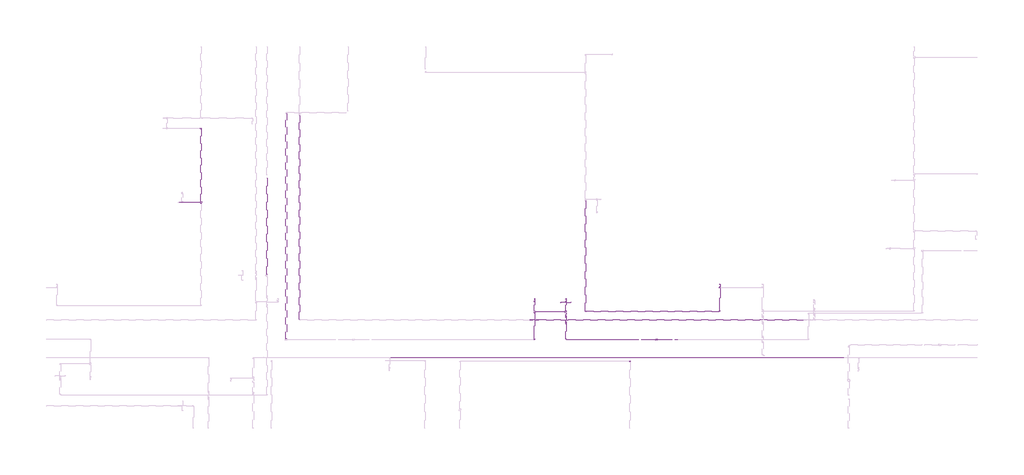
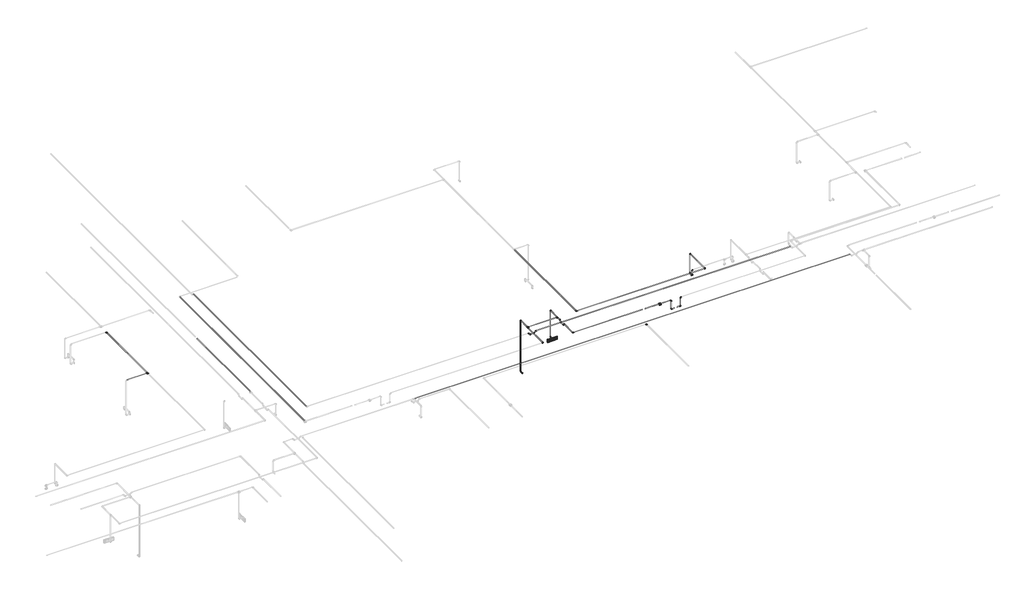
# One storey, part 26 of 40: 36 cable carrier segments, 28 cable carrier fittings, 2 alarms, 1 electric appliance.
"""IFC4 building model written with IfcOpenShell, lengths in millimetres."""

from ifc_helpers import new_model, si_unit, point, frame, frame_2d, origin, place, context, project, spatial, circle_curve, trimmed, segment, composite_curve, outline, extrude, transform, mapped, element, save
from components import alarm_4b7e8fd8, alarm_a2247946, cable_carrier_fitting_69f1a801, cable_carrier_fitting_8122f9af, cable_carrier_fitting_8fd13dfc, electric_appliance_5961a143

model = new_model("IFC4")

# Units and contexts
model_context = context("Model", 3, world=origin())
ifc_project = project(units=[si_unit("LENGTHUNIT", "METRE", prefix="MILLI")], contexts=[model_context])

# Site, building, storey
site = spatial("IfcSite", under=ifc_project)
building = spatial("IfcBuilding", under=site)
storey = spatial("IfcBuildingStorey", under=building, Name="1 этаж", Elevation=0.0)

# Alarms
placement = place(None, origin())
alarm_shape = alarm_4b7e8fd8(model_context)
element("IfcAlarm", 1, ObjectType="RBZ_Оповещатель_Световой_Рубеж_ОПОП1-R3(грань) : ОПОП 1-R3 \"Выход\"", at=placement, inside=storey, context=model_context, shape_type="MappedRepresentation", body=[
    mapped(alarm_shape, transform((-4706.0740021, 6244.6370105, 2300.0), x_axis=(1.0, 0.0, 0.0), y_axis=(0.0, 0.0, 1.0), z_axis=(0.0, -1.0, 0.0))),
])
alarm_2_shape = alarm_a2247946(model_context)
element("IfcAlarm", 2, ObjectType="RBZ_ИзоляторШлейфа_Рубеж_ИЗ-1_прот.R3(плоскость) : ИЗ-1 прот.R3", at=placement, inside=storey, context=model_context, shape_type="MappedRepresentation", body=[
    mapped(alarm_2_shape, transform((-1992.3240021, 5122.1370105, 3200.05), x_axis=(1.0, 0.0, 0.0), y_axis=(0.0, 1.0, 0.0), z_axis=(0.0, 0.0, 1.0))),
])

# Cable carrier fittings
cable_carrier_fitting_shape = cable_carrier_fitting_69f1a801(model_context)
element("IfcCableCarrierFitting", 3, ObjectType="ADSK_Поворот_Минимальный размер : Неспецифицируемый", at=placement, inside=storey, context=model_context, shape_type="MappedRepresentation", body=[
    mapped(cable_carrier_fitting_shape, transform((-2782.8240025, 4479.5908077, 3190.0036059), x_axis=(0.0, 0.9999999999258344, 1.2179130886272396e-05), y_axis=(-0.9999999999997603, 8.433763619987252e-12, -6.924766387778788e-07), z_axis=(-6.924766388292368e-07, -1.2179130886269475e-05, 0.9999999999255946))),
])
element("IfcCableCarrierFitting", 4, ObjectType="ADSK_Поворот_Минимальный размер : Неспецифицируемый", at=placement, inside=storey, context=model_context, shape_type="MappedRepresentation", body=[
    mapped(cable_carrier_fitting_shape, transform((-1636.0238077, 5122.1370105, 2891.5753772), x_axis=(-1.0, 0.0, 0.0), y_axis=(0.0, 0.0, 1.0), z_axis=(0.0, 1.0, 0.0))),
])
element("IfcCableCarrierFitting", 5, ObjectType="ADSK_Поворот_Минимальный размер : Неспецифицируемый", at=placement, inside=storey, context=model_context, shape_type="MappedRepresentation", body=[
    mapped(cable_carrier_fitting_shape, transform((-1636.0238077, 5122.1370105, 3189.3), x_axis=(0.0, 0.0, 1.0), y_axis=(-1.0, 0.0, 0.0), z_axis=(0.0, -1.0, 0.0))),
])
element("IfcCableCarrierFitting", 6, ObjectType="ADSK_Поворот_Минимальный размер : Неспецифицируемый", at=placement, inside=storey, context=model_context, shape_type="MappedRepresentation", body=[
    mapped(cable_carrier_fitting_shape, transform((-5639.8240021, 5122.1370105, 3189.3), x_axis=(1.0, 0.0, 0.0), y_axis=(0.0, 1.0, 0.0), z_axis=(0.0, 0.0, 1.0))),
])
element("IfcCableCarrierFitting", 7, ObjectType="ADSK_Поворот_Минимальный размер : Неспецифицируемый", at=placement, inside=storey, context=model_context, shape_type="MappedRepresentation", body=[
    mapped(cable_carrier_fitting_shape, transform((-1348.6241965, 5122.1370105, 2891.5753772), x_axis=(1.0, 0.0, 0.0), y_axis=(0.0, 0.0, 1.0), z_axis=(0.0, -1.0, 0.0))),
])
element("IfcCableCarrierFitting", 8, ObjectType="ADSK_Поворот_Минимальный размер : Неспецифицируемый", at=placement, inside=storey, context=model_context, shape_type="MappedRepresentation", body=[
    mapped(cable_carrier_fitting_shape, transform((-1348.6241965, 5122.1370105, 3189.2903068), x_axis=(0.0, 0.0, 1.0), y_axis=(1.0, 0.0, 0.0), z_axis=(0.0, 1.0, 0.0))),
])
element("IfcCableCarrierFitting", 9, ObjectType="ADSK_Поворот_Минимальный размер : Неспецифицируемый", at=placement, inside=storey, context=model_context, shape_type="MappedRepresentation", body=[
    mapped(cable_carrier_fitting_shape, transform((-92.3240021, 6678.6370105, 2700.0), x_axis=(0.0, 0.0, 1.0), y_axis=(1.0, 0.0, 0.0), z_axis=(0.0, 1.0, 0.0))),
])
element("IfcCableCarrierFitting", 10, ObjectType="ADSK_Поворот_Минимальный размер : Неспецифицируемый", at=placement, inside=storey, context=model_context, shape_type="MappedRepresentation", body=[
    mapped(cable_carrier_fitting_shape, transform((-92.3240021, 6778.8368161, 2534.0911237), x_axis=(0.0, 1.0, 0.0), y_axis=(0.0, 0.0, 1.0), z_axis=(1.0, 0.0, 0.0))),
])
element("IfcCableCarrierFitting", 11, ObjectType="ADSK_Поворот_Минимальный размер : Неспецифицируемый", at=placement, inside=storey, context=model_context, shape_type="MappedRepresentation", body=[
    mapped(cable_carrier_fitting_shape, transform((-92.3240021, 6778.8368161, 3187.0), x_axis=(0.0, 0.0, 1.0), y_axis=(0.0, -1.0, 0.0), z_axis=(1.0, 0.0, 0.0))),
])
element("IfcCableCarrierFitting", 12, ObjectType="ADSK_Поворот_Минимальный размер : Неспецифицируемый", at=placement, inside=storey, context=model_context, shape_type="MappedRepresentation", body=[
    mapped(cable_carrier_fitting_shape, transform((-92.3240021, 5966.4696908, 3187.0), x_axis=(1.0, 0.0, 0.0), y_axis=(0.0, 1.0, 0.0), z_axis=(0.0, 0.0, 1.0))),
])
element("IfcCableCarrierFitting", 13, ObjectType="ADSK_Поворот_Минимальный размер : Неспецифицируемый", at=placement, inside=storey, context=model_context, shape_type="MappedRepresentation", body=[
    mapped(cable_carrier_fitting_shape, transform((-5639.8240021, 6341.8368161, 1500.0), x_axis=(0.0, 1.0, 0.0), y_axis=(0.0, 0.0, 1.0), z_axis=(1.0, 0.0, 0.0))),
])
element("IfcCableCarrierFitting", 14, ObjectType="ADSK_Поворот_Минимальный размер : Неспецифицируемый", at=placement, inside=storey, context=model_context, shape_type="MappedRepresentation", body=[
    mapped(cable_carrier_fitting_shape, transform((-5639.8240021, 6341.8368161, 3189.3), x_axis=(0.0, 0.0, 1.0), y_axis=(0.0, -1.0, 0.0), z_axis=(1.0, 0.0, 0.0))),
])
element("IfcCableCarrierFitting", 15, ObjectType="ADSK_Поворот_Минимальный размер : Неспецифицируемый", at=placement, inside=storey, context=model_context, shape_type="MappedRepresentation", body=[
    mapped(cable_carrier_fitting_shape, transform((-4706.0740021, 6341.8368161, 2300.0), x_axis=(0.0, 1.0, 0.0), y_axis=(0.0, 0.0, 1.0), z_axis=(1.0, 0.0, 0.0))),
])
element("IfcCableCarrierFitting", 16, ObjectType="ADSK_Поворот_Минимальный размер : Неспецифицируемый", at=placement, inside=storey, context=model_context, shape_type="MappedRepresentation", body=[
    mapped(cable_carrier_fitting_shape, transform((-4706.0740021, 6341.8368161, 3189.3), x_axis=(0.0, 0.0, 1.0), y_axis=(0.0, -1.0, 0.0), z_axis=(1.0, 0.0, 0.0))),
])
element("IfcCableCarrierFitting", 17, ObjectType="ADSK_Поворот_Минимальный размер : Неспецифицируемый", at=placement, inside=storey, context=model_context, shape_type="MappedRepresentation", body=[
    mapped(cable_carrier_fitting_shape, transform((-4706.0740021, 5122.1370105, 3189.3), x_axis=(0.0, -1.0, 0.0), y_axis=(1.0, 0.0, 0.0), z_axis=(0.0, 0.0, 1.0))),
])
element("IfcCableCarrierFitting", 18, ObjectType="ADSK_Поворот_Минимальный размер : Неспецифицируемый", at=placement, inside=storey, context=model_context, shape_type="MappedRepresentation", body=[
    mapped(cable_carrier_fitting_shape, transform((-15622.3240021, 11449.6370105, 3187.0), x_axis=(0.0, 1.0, 0.0), y_axis=(-1.0, 0.0, 0.0), z_axis=(0.0, 0.0, 1.0))),
])
element("IfcCableCarrierFitting", 19, ObjectType="ADSK_Поворот_Минимальный размер : Неспецифицируемый", at=placement, inside=storey, context=model_context, shape_type="MappedRepresentation", body=[
    mapped(cable_carrier_fitting_shape, transform((-4118.3240021, 5966.4696908, 3187.0), x_axis=(0.0, -1.0, 0.0), y_axis=(1.0, 0.0, 0.0), z_axis=(0.0, 0.0, 1.0))),
])
cable_carrier_fitting_2_shape = cable_carrier_fitting_8122f9af(model_context)
element("IfcCableCarrierFitting", 20, ObjectType="ADSK_Поворот_Минимальный размер : Неспецифицируемый", at=placement, inside=storey, context=model_context, shape_type="MappedRepresentation", body=[
    mapped(cable_carrier_fitting_2_shape, transform((-5756.3962734, 5709.6370105, 3180.0), x_axis=(1.0, 0.0, 0.0), y_axis=(0.0, 0.0, -1.0), z_axis=(0.0, 1.0, 0.0))),
])
element("IfcCableCarrierFitting", 21, ObjectType="ADSK_Поворот_Минимальный размер : Неспецифицируемый", at=placement, inside=storey, context=model_context, shape_type="MappedRepresentation", body=[
    mapped(cable_carrier_fitting_2_shape, transform((-5706.3962734, 5709.6370105, 3130.0), x_axis=(0.7071067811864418, 0.0, -0.7071067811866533), y_axis=(0.7071067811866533, 0.0, 0.7071067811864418), z_axis=(0.0, -1.0, 0.0))),
])
element("IfcCableCarrierFitting", 22, ObjectType="ADSK_Поворот_Минимальный размер : Неспецифицируемый", at=placement, inside=storey, context=model_context, shape_type="MappedRepresentation", body=[
    mapped(cable_carrier_fitting_2_shape, transform((-5573.2517309, 5709.6370105, 3130.0), x_axis=(1.0, 0.0, 0.0), y_axis=(0.0, 0.0, 1.0), z_axis=(0.0, -1.0, 0.0))),
])
element("IfcCableCarrierFitting", 23, ObjectType="ADSK_Поворот_Минимальный размер : Неспецифицируемый", at=placement, inside=storey, context=model_context, shape_type="MappedRepresentation", body=[
    mapped(cable_carrier_fitting_2_shape, transform((-4706.0740021, 5643.0647393, 3139.3), x_axis=(0.0, 0.7071067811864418, -0.7071067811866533), y_axis=(0.0, 0.7071067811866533, 0.7071067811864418), z_axis=(1.0, 0.0, 0.0))),
])
element("IfcCableCarrierFitting", 24, ObjectType="ADSK_Поворот_Минимальный размер : Неспецифицируемый", at=placement, inside=storey, context=model_context, shape_type="MappedRepresentation", body=[
    mapped(cable_carrier_fitting_2_shape, transform((-4706.0740021, 5776.2092818, 3139.3), x_axis=(0.0, 1.0, 0.0), y_axis=(0.0, 0.0, 1.0), z_axis=(1.0, 0.0, 0.0))),
])
element("IfcCableCarrierFitting", 25, ObjectType="ADSK_Поворот_Минимальный размер : Неспецифицируемый", at=placement, inside=storey, context=model_context, shape_type="MappedRepresentation", body=[
    mapped(cable_carrier_fitting_2_shape, transform((-5523.2517309, 5709.6370105, 3180.0), x_axis=(0.7071067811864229, 0.0, 0.7071067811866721), y_axis=(0.7071067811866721, 0.0, -0.7071067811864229), z_axis=(0.0, 1.0, 0.0))),
])
element("IfcCableCarrierFitting", 26, ObjectType="ADSK_Поворот_Минимальный размер : Неспецифицируемый", at=placement, inside=storey, context=model_context, shape_type="MappedRepresentation", body=[
    mapped(cable_carrier_fitting_2_shape, transform((-4706.0740021, 5593.0647393, 3189.3), x_axis=(0.0, -0.7071067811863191, 0.7071067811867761), y_axis=(0.0, -0.7071067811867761, -0.7071067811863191), z_axis=(1.0, 0.0, 0.0))),
])
element("IfcCableCarrierFitting", 27, ObjectType="ADSK_Поворот_Минимальный размер : Неспецифицируемый", at=placement, inside=storey, context=model_context, shape_type="MappedRepresentation", body=[
    mapped(cable_carrier_fitting_2_shape, transform((-4706.0740021, 5826.2092818, 3189.3), x_axis=(0.0, 0.7071067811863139, 0.7071067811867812), y_axis=(0.0, 0.7071067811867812, -0.7071067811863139), z_axis=(-1.0, 0.0, 0.0))),
])
cable_carrier_fitting_3_shape = cable_carrier_fitting_8fd13dfc(model_context)
element("IfcCableCarrierFitting", 28, ObjectType="ADSK_Тройник : ПВХ", at=placement, inside=storey, context=model_context, shape_type="MappedRepresentation", body=[
    mapped(cable_carrier_fitting_3_shape, transform((-5639.8240021, 5956.5299441, 3189.3), x_axis=(0.0, 1.0, 0.0), y_axis=(-1.0, 0.0, 0.0), z_axis=(0.0, 0.0, 1.0))),
])
element("IfcCableCarrierFitting", 29, ObjectType="ADSK_Тройник : ПВХ", at=placement, inside=storey, context=model_context, shape_type="MappedRepresentation", body=[
    mapped(cable_carrier_fitting_3_shape, transform((-4706.0740021, 5956.5299441, 3189.3), x_axis=(0.0, -1.0, 0.0), y_axis=(1.0, 0.0, 0.0), z_axis=(0.0, 0.0, 1.0))),
])
element("IfcCableCarrierFitting", 30, ObjectType="ADSK_Тройник : ПВХ", at=placement, inside=storey, context=model_context, shape_type="MappedRepresentation", body=[
    mapped(cable_carrier_fitting_3_shape, transform((-15622.3240021, 9234.4907448, 3187.0), x_axis=(0.0, -1.0, 0.0), y_axis=(1.0, 0.0, 0.0), z_axis=(0.0, 0.0, 1.0))),
])

# Cable carrier segments
element("IfcCableCarrierSegment", 31, ObjectType="Гофрированная труба", at=placement, inside=storey, context=model_context, shape_type="SweptSolid", body=[
    extrude(outline(composite_curve([segment(trimmed(circle_curve(frame_2d((3189.3, -13072.3240021)), 10.0), [point((3189.3, -13062.3240021))], [point((3199.3, -13072.3240021))], False, "CARTESIAN"), True, "CONTINUOUS"), segment(trimmed(circle_curve(frame_2d((3189.3, -13072.3240021)), 10.0), [point((3199.3, -13072.3240021))], [point((3189.3, -13082.3240021))], False, "CARTESIAN"), True, "CONTINUOUS"), segment(trimmed(circle_curve(frame_2d((3189.3, -13072.3240021)), 10.0), [point((3189.3, -13082.3240021))], [point((3179.3, -13072.3240021))], False, "CARTESIAN"), True, "CONTINUOUS"), segment(trimmed(circle_curve(frame_2d((3189.3, -13072.3240021)), 10.0), [point((3179.3, -13072.3240021))], [point((3189.3, -13062.3240021))], False, "CARTESIAN"), True, "CONTINUOUS")], self_intersect=False)), frame((0.0, 5148.1370105, 0.0), z_axis=(0.0, 1.0, 0.0), x_axis=(0.0, 0.0, 1.0)), (0.0, 0.0, 1.0), 6755.5),
])
element("IfcCableCarrierSegment", 32, ObjectType="Гофрированная труба", at=placement, inside=storey, context=model_context, shape_type="SweptSolid", body=[
    extrude(outline(composite_curve([segment(trimmed(circle_curve(frame_2d((0.0, 10.0)), 10.0), [point((0.0, 0.0))], [point((-10.0, 10.0))], False, "CARTESIAN"), True, "CONTINUOUS"), segment(trimmed(circle_curve(frame_2d((0.0, 10.0)), 10.0), [point((-10.0, 10.0))], [point((0.0, 20.0))], False, "CARTESIAN"), True, "CONTINUOUS"), segment(trimmed(circle_curve(frame_2d((0.0, 10.0)), 10.0), [point((0.0, 20.0))], [point((10.0, 10.0))], False, "CARTESIAN"), True, "CONTINUOUS"), segment(trimmed(circle_curve(frame_2d((0.0, 10.0)), 10.0), [point((10.0, 10.0))], [point((0.0, 0.0))], False, "CARTESIAN"), True, "CONTINUOUS")], self_intersect=False)), frame((-13662.3240113, 9963.1370097, 3189.2125212), z_axis=(0.0, -0.999999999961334, 8.793864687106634e-06), x_axis=(0.0, -8.793864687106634e-06, -0.999999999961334)), (0.0, 0.0, 1.0), 2885.9999799),
])
element("IfcCableCarrierSegment", 33, ObjectType="Гофрированная труба", at=placement, inside=storey, context=model_context, shape_type="SweptSolid", body=[
    extrude(outline(composite_curve([segment(trimmed(circle_curve(frame_2d((5122.1370105, 3189.3)), 10.0), [point((5112.1370105, 3189.3))], [point((5122.1370105, 3199.3))], False, "CARTESIAN"), True, "CONTINUOUS"), segment(trimmed(circle_curve(frame_2d((5122.1370105, 3189.3)), 10.0), [point((5122.1370105, 3199.3))], [point((5132.1370105, 3189.3))], False, "CARTESIAN"), True, "CONTINUOUS"), segment(trimmed(circle_curve(frame_2d((5122.1370105, 3189.3)), 10.0), [point((5132.1370105, 3189.3))], [point((5122.1370105, 3179.3))], False, "CARTESIAN"), True, "CONTINUOUS"), segment(trimmed(circle_curve(frame_2d((5122.1370105, 3189.3)), 10.0), [point((5122.1370105, 3179.3))], [point((5112.1370105, 3189.3))], False, "CARTESIAN"), True, "CONTINUOUS")], self_intersect=False)), frame((-4685.0740021, 0.0, 0.0), z_axis=(1.0, 0.0, 0.0), x_axis=(0.0, 1.0, 0.0)), (0.0, 0.0, 1.0), 2146.25),
])
element("IfcCableCarrierSegment", 34, ObjectType="Гофрированная труба", at=placement, inside=storey, context=model_context, shape_type="SweptSolid", body=[
    extrude(outline(composite_curve([segment(trimmed(circle_curve(frame_2d((3189.3, -5639.8240021)), 10.0), [point((3189.3, -5629.8240021))], [point((3199.3, -5639.8240021))], False, "CARTESIAN"), True, "CONTINUOUS"), segment(trimmed(circle_curve(frame_2d((3189.3, -5639.8240021)), 10.0), [point((3199.3, -5639.8240021))], [point((3189.3, -5649.8240021))], False, "CARTESIAN"), True, "CONTINUOUS"), segment(trimmed(circle_curve(frame_2d((3189.3, -5639.8240021)), 10.0), [point((3189.3, -5649.8240021))], [point((3179.3, -5639.8240021))], False, "CARTESIAN"), True, "CONTINUOUS"), segment(trimmed(circle_curve(frame_2d((3189.3, -5639.8240021)), 10.0), [point((3179.3, -5639.8240021))], [point((3189.3, -5629.8240021))], False, "CARTESIAN"), True, "CONTINUOUS")], self_intersect=False)), frame((0.0, 5143.1370105, 0.0), z_axis=(0.0, 1.0, 0.0), x_axis=(0.0, 0.0, 1.0)), (0.0, 0.0, 1.0), 783.3929335),
])
element("IfcCableCarrierSegment", 35, ObjectType="Гофрированная труба", at=placement, inside=storey, context=model_context, shape_type="SweptSolid", body=[
    extrude(outline(composite_curve([segment(trimmed(circle_curve(frame_2d((3139.3, -4706.0740021)), 10.0), [point((3139.3, -4696.0740021))], [point((3149.3, -4706.0740021))], False, "CARTESIAN"), True, "CONTINUOUS"), segment(trimmed(circle_curve(frame_2d((3139.3, -4706.0740021)), 10.0), [point((3149.3, -4706.0740021))], [point((3139.3, -4716.0740021))], False, "CARTESIAN"), True, "CONTINUOUS"), segment(trimmed(circle_curve(frame_2d((3139.3, -4706.0740021)), 10.0), [point((3139.3, -4716.0740021))], [point((3129.3, -4706.0740021))], False, "CARTESIAN"), True, "CONTINUOUS"), segment(trimmed(circle_curve(frame_2d((3139.3, -4706.0740021)), 10.0), [point((3129.3, -4706.0740021))], [point((3139.3, -4696.0740021))], False, "CARTESIAN"), True, "CONTINUOUS")], self_intersect=False)), frame((0.0, 5652.3490105, 0.0), z_axis=(0.0, 1.0, 0.0), x_axis=(0.0, 0.0, 1.0)), (0.0, 0.0, 1.0), 114.576),
])
element("IfcCableCarrierSegment", 36, ObjectType="Гофрированная труба", at=placement, inside=storey, context=model_context, shape_type="SweptSolid", body=[
    extrude(outline(composite_curve([segment(trimmed(circle_curve(frame_2d((5956.5299441, 3189.3)), 10.0), [point((5966.5299441, 3189.3))], [point((5956.5299441, 3179.3))], False, "CARTESIAN"), True, "CONTINUOUS"), segment(trimmed(circle_curve(frame_2d((5956.5299441, 3189.3)), 10.0), [point((5956.5299441, 3179.3))], [point((5946.5299441, 3189.3))], False, "CARTESIAN"), True, "CONTINUOUS"), segment(trimmed(circle_curve(frame_2d((5956.5299441, 3189.3)), 10.0), [point((5946.5299441, 3189.3))], [point((5956.5299441, 3199.3))], False, "CARTESIAN"), True, "CONTINUOUS"), segment(trimmed(circle_curve(frame_2d((5956.5299441, 3189.3)), 10.0), [point((5956.5299441, 3199.3))], [point((5966.5299441, 3189.3))], False, "CARTESIAN"), True, "CONTINUOUS")], self_intersect=False)), frame((-5609.8240021, 0.0, 0.0), z_axis=(1.0, 0.0, 0.0), x_axis=(0.0, 1.0, 0.0)), (0.0, 0.0, 1.0), 873.75),
])
element("IfcCableCarrierSegment", 37, ObjectType="Гофрированная труба", at=placement, inside=storey, context=model_context, shape_type="SweptSolid", body=[
    extrude(outline(composite_curve([segment(trimmed(circle_curve(frame_2d((5122.1370105, 3189.3)), 10.0), [point((5132.1370105, 3189.3))], [point((5122.1370105, 3179.3))], False, "CARTESIAN"), True, "CONTINUOUS"), segment(trimmed(circle_curve(frame_2d((5122.1370105, 3189.3)), 10.0), [point((5122.1370105, 3179.3))], [point((5112.1370105, 3189.3))], False, "CARTESIAN"), True, "CONTINUOUS"), segment(trimmed(circle_curve(frame_2d((5122.1370105, 3189.3)), 10.0), [point((5112.1370105, 3189.3))], [point((5122.1370105, 3199.3))], False, "CARTESIAN"), True, "CONTINUOUS"), segment(trimmed(circle_curve(frame_2d((5122.1370105, 3189.3)), 10.0), [point((5122.1370105, 3199.3))], [point((5132.1370105, 3189.3))], False, "CARTESIAN"), True, "CONTINUOUS")], self_intersect=False)), frame((-2445.8240021, 0.0, 0.0), z_axis=(1.0, 0.0, 0.0), x_axis=(0.0, 1.0, 0.0)), (0.0, 0.0, 1.0), 427.5),
])
element("IfcCableCarrierSegment", 38, ObjectType="Гофрированная труба", at=placement, inside=storey, context=model_context, shape_type="SweptSolid", body=[
    extrude(outline(composite_curve([segment(trimmed(circle_curve(frame_2d((5122.1370105, 3189.3)), 10.0), [point((5132.1370105, 3189.3))], [point((5122.1370105, 3179.3))], False, "CARTESIAN"), True, "CONTINUOUS"), segment(trimmed(circle_curve(frame_2d((5122.1370105, 3189.3)), 10.0), [point((5122.1370105, 3179.3))], [point((5112.1370105, 3189.3))], False, "CARTESIAN"), True, "CONTINUOUS"), segment(trimmed(circle_curve(frame_2d((5122.1370105, 3189.3)), 10.0), [point((5112.1370105, 3189.3))], [point((5122.1370105, 3199.3))], False, "CARTESIAN"), True, "CONTINUOUS"), segment(trimmed(circle_curve(frame_2d((5122.1370105, 3189.3)), 10.0), [point((5122.1370105, 3199.3))], [point((5132.1370105, 3189.3))], False, "CARTESIAN"), True, "CONTINUOUS")], self_intersect=False)), frame((-1966.3240021, 0.0, 0.0), z_axis=(1.0, 0.0, 0.0), x_axis=(0.0, 1.0, 0.0)), (0.0, 0.0, 1.0), 309.3001944),
])
element("IfcCableCarrierSegment", 39, ObjectType="Гофрированная труба", at=placement, inside=storey, context=model_context, shape_type="SweptSolid", body=[
    extrude(outline(composite_curve([segment(trimmed(circle_curve(frame_2d((5122.1370105, 2891.5753772)), 10.0), [point((5132.1370105, 2891.5753772))], [point((5122.1370105, 2881.5753772))], False, "CARTESIAN"), True, "CONTINUOUS"), segment(trimmed(circle_curve(frame_2d((5122.1370105, 2891.5753772)), 10.0), [point((5122.1370105, 2881.5753772))], [point((5112.1370105, 2891.5753772))], False, "CARTESIAN"), True, "CONTINUOUS"), segment(trimmed(circle_curve(frame_2d((5122.1370105, 2891.5753772)), 10.0), [point((5112.1370105, 2891.5753772))], [point((5122.1370105, 2901.5753772))], False, "CARTESIAN"), True, "CONTINUOUS"), segment(trimmed(circle_curve(frame_2d((5122.1370105, 2891.5753772)), 10.0), [point((5122.1370105, 2901.5753772))], [point((5132.1370105, 2891.5753772))], False, "CARTESIAN"), True, "CONTINUOUS")], self_intersect=False)), frame((-1615.0238077, 0.0, 0.0), z_axis=(1.0, 0.0, 0.0), x_axis=(0.0, 1.0, 0.0)), (0.0, 0.0, 1.0), 76.1998056),
])
element("IfcCableCarrierSegment", 40, ObjectType="Гофрированная труба", at=placement, inside=storey, context=model_context, shape_type="SweptSolid", body=[
    extrude(outline(composite_curve([segment(trimmed(circle_curve(frame_2d((-1636.0238077, 5122.1370105)), 10.0), [point((-1646.0238077, 5122.1370105))], [point((-1636.0238077, 5132.1370105))], False, "CARTESIAN"), True, "CONTINUOUS"), segment(trimmed(circle_curve(frame_2d((-1636.0238077, 5122.1370105)), 10.0), [point((-1636.0238077, 5132.1370105))], [point((-1626.0238077, 5122.1370105))], False, "CARTESIAN"), True, "CONTINUOUS"), segment(trimmed(circle_curve(frame_2d((-1636.0238077, 5122.1370105)), 10.0), [point((-1626.0238077, 5122.1370105))], [point((-1636.0238077, 5112.1370105))], False, "CARTESIAN"), True, "CONTINUOUS"), segment(trimmed(circle_curve(frame_2d((-1636.0238077, 5122.1370105)), 10.0), [point((-1636.0238077, 5112.1370105))], [point((-1646.0238077, 5122.1370105))], False, "CARTESIAN"), True, "CONTINUOUS")], self_intersect=False)), frame((0.0, 0.0, 2912.5753772), z_axis=(0.0, 0.0, 1.0), x_axis=(1.0, 0.0, 0.0)), (0.0, 0.0, 1.0), 255.7246228),
])
element("IfcCableCarrierSegment", 41, ObjectType="Гофрированная труба", at=placement, inside=storey, context=model_context, shape_type="SweptSolid", body=[
    extrude(outline(composite_curve([segment(trimmed(circle_curve(frame_2d((5122.1370105, 2891.5753772)), 10.0), [point((5112.1370105, 2891.5753772))], [point((5122.1370105, 2901.5753772))], False, "CARTESIAN"), True, "CONTINUOUS"), segment(trimmed(circle_curve(frame_2d((5122.1370105, 2891.5753772)), 10.0), [point((5122.1370105, 2901.5753772))], [point((5132.1370105, 2891.5753772))], False, "CARTESIAN"), True, "CONTINUOUS"), segment(trimmed(circle_curve(frame_2d((5122.1370105, 2891.5753772)), 10.0), [point((5132.1370105, 2891.5753772))], [point((5122.1370105, 2881.5753772))], False, "CARTESIAN"), True, "CONTINUOUS"), segment(trimmed(circle_curve(frame_2d((5122.1370105, 2891.5753772)), 10.0), [point((5122.1370105, 2881.5753772))], [point((5112.1370105, 2891.5753772))], False, "CARTESIAN"), True, "CONTINUOUS")], self_intersect=False)), frame((-1445.8240021, 0.0, 0.0), z_axis=(1.0, 0.0, 0.0), x_axis=(0.0, 1.0, 0.0)), (0.0, 0.0, 1.0), 76.1998056),
])
element("IfcCableCarrierSegment", 42, ObjectType="Гофрированная труба", at=placement, inside=storey, context=model_context, shape_type="SweptSolid", body=[
    extrude(outline(composite_curve([segment(trimmed(circle_curve(frame_2d((-1348.6241965, 5122.1370105)), 10.0), [point((-1358.6241965, 5122.1370105))], [point((-1348.6241965, 5132.1370105))], False, "CARTESIAN"), True, "CONTINUOUS"), segment(trimmed(circle_curve(frame_2d((-1348.6241965, 5122.1370105)), 10.0), [point((-1348.6241965, 5132.1370105))], [point((-1338.6241965, 5122.1370105))], False, "CARTESIAN"), True, "CONTINUOUS"), segment(trimmed(circle_curve(frame_2d((-1348.6241965, 5122.1370105)), 10.0), [point((-1338.6241965, 5122.1370105))], [point((-1348.6241965, 5112.1370105))], False, "CARTESIAN"), True, "CONTINUOUS"), segment(trimmed(circle_curve(frame_2d((-1348.6241965, 5122.1370105)), 10.0), [point((-1348.6241965, 5112.1370105))], [point((-1358.6241965, 5122.1370105))], False, "CARTESIAN"), True, "CONTINUOUS")], self_intersect=False)), frame((0.0, 0.0, 2912.5753772), z_axis=(0.0, 0.0, 1.0), x_axis=(1.0, 0.0, 0.0)), (0.0, 0.0, 1.0), 255.7149296),
])
element("IfcCableCarrierSegment", 43, ObjectType="Гофрированная труба", at=placement, inside=storey, context=model_context, shape_type="SweptSolid", body=[
    extrude(outline(composite_curve([segment(trimmed(circle_curve(frame_2d((3187.0, -15622.3240021)), 10.0), [point((3187.0, -15612.3240021))], [point((3197.0, -15622.3240021))], False, "CARTESIAN"), True, "CONTINUOUS"), segment(trimmed(circle_curve(frame_2d((3187.0, -15622.3240021)), 10.0), [point((3197.0, -15622.3240021))], [point((3187.0, -15632.3240021))], False, "CARTESIAN"), True, "CONTINUOUS"), segment(trimmed(circle_curve(frame_2d((3187.0, -15622.3240021)), 10.0), [point((3187.0, -15632.3240021))], [point((3177.0, -15622.3240021))], False, "CARTESIAN"), True, "CONTINUOUS"), segment(trimmed(circle_curve(frame_2d((3187.0, -15622.3240021)), 10.0), [point((3177.0, -15622.3240021))], [point((3187.0, -15612.3240021))], False, "CARTESIAN"), True, "CONTINUOUS")], self_intersect=False)), frame((0.0, 9264.4907448, 0.0), z_axis=(0.0, 1.0, 0.0), x_axis=(0.0, 0.0, 1.0)), (0.0, 0.0, 1.0), 2164.1462657),
])
element("IfcCableCarrierSegment", 44, ObjectType="Гофрированная труба", at=placement, inside=storey, context=model_context, shape_type="SweptSolid", body=[
    extrude(outline(composite_curve([segment(trimmed(circle_curve(frame_2d((5966.4696908, 3187.0)), 10.0), [point((5976.4696908, 3187.0))], [point((5966.4696908, 3177.0))], False, "CARTESIAN"), True, "CONTINUOUS"), segment(trimmed(circle_curve(frame_2d((5966.4696908, 3187.0)), 10.0), [point((5966.4696908, 3177.0))], [point((5956.4696908, 3187.0))], False, "CARTESIAN"), True, "CONTINUOUS"), segment(trimmed(circle_curve(frame_2d((5966.4696908, 3187.0)), 10.0), [point((5956.4696908, 3187.0))], [point((5966.4696908, 3197.0))], False, "CARTESIAN"), True, "CONTINUOUS"), segment(trimmed(circle_curve(frame_2d((5966.4696908, 3187.0)), 10.0), [point((5966.4696908, 3197.0))], [point((5976.4696908, 3187.0))], False, "CARTESIAN"), True, "CONTINUOUS")], self_intersect=False)), frame((-4097.3240021, 0.0, 0.0), z_axis=(1.0, 0.0, 0.0), x_axis=(0.0, 1.0, 0.0)), (0.0, 0.0, 1.0), 3984.0),
])
element("IfcCableCarrierSegment", 45, ObjectType="Гофрированная труба", at=placement, inside=storey, context=model_context, shape_type="SweptSolid", body=[
    extrude(outline(composite_curve([segment(trimmed(circle_curve(frame_2d((-92.3240021, 6678.6370105)), 10.0), [point((-102.3240021, 6678.6370105))], [point((-92.3240021, 6688.6370105))], False, "CARTESIAN"), True, "CONTINUOUS"), segment(trimmed(circle_curve(frame_2d((-92.3240021, 6678.6370105)), 10.0), [point((-92.3240021, 6688.6370105))], [point((-82.3240021, 6678.6370105))], False, "CARTESIAN"), True, "CONTINUOUS"), segment(trimmed(circle_curve(frame_2d((-92.3240021, 6678.6370105)), 10.0), [point((-82.3240021, 6678.6370105))], [point((-92.3240021, 6668.6370105))], False, "CARTESIAN"), True, "CONTINUOUS"), segment(trimmed(circle_curve(frame_2d((-92.3240021, 6678.6370105)), 10.0), [point((-92.3240021, 6668.6370105))], [point((-102.3240021, 6678.6370105))], False, "CARTESIAN"), True, "CONTINUOUS")], self_intersect=False)), frame((0.0, 0.0, 2563.1207114), z_axis=(0.0, 0.0, 1.0), x_axis=(1.0, 0.0, 0.0)), (0.0, 0.0, 1.0), 115.8792886),
])
element("IfcCableCarrierSegment", 46, ObjectType="Гофрированная труба", at=placement, inside=storey, context=model_context, shape_type="SweptSolid", body=[
    extrude(outline(composite_curve([segment(trimmed(circle_curve(frame_2d((3187.0, -92.3240021)), 10.0), [point((3187.0, -102.3240021))], [point((3177.0, -92.3240021))], False, "CARTESIAN"), True, "CONTINUOUS"), segment(trimmed(circle_curve(frame_2d((3187.0, -92.3240021)), 10.0), [point((3177.0, -92.3240021))], [point((3187.0, -82.3240021))], False, "CARTESIAN"), True, "CONTINUOUS"), segment(trimmed(circle_curve(frame_2d((3187.0, -92.3240021)), 10.0), [point((3187.0, -82.3240021))], [point((3197.0, -92.3240021))], False, "CARTESIAN"), True, "CONTINUOUS"), segment(trimmed(circle_curve(frame_2d((3187.0, -92.3240021)), 10.0), [point((3197.0, -92.3240021))], [point((3187.0, -102.3240021))], False, "CARTESIAN"), True, "CONTINUOUS")], self_intersect=False)), frame((0.0, 5987.4696908, 0.0), z_axis=(0.0, 1.0, 0.0), x_axis=(0.0, 0.0, 1.0)), (0.0, 0.0, 1.0), 770.3671253),
])
element("IfcCableCarrierSegment", 47, ObjectType="Гофрированная труба", at=placement, inside=storey, context=model_context, shape_type="SweptSolid", body=[
    extrude(outline(composite_curve([segment(trimmed(circle_curve(frame_2d((2534.0911237, -92.3240021)), 10.0), [point((2534.0911237, -82.3240021))], [point((2544.0911237, -92.3240021))], False, "CARTESIAN"), True, "CONTINUOUS"), segment(trimmed(circle_curve(frame_2d((2534.0911237, -92.3240021)), 10.0), [point((2544.0911237, -92.3240021))], [point((2534.0911237, -102.3240021))], False, "CARTESIAN"), True, "CONTINUOUS"), segment(trimmed(circle_curve(frame_2d((2534.0911237, -92.3240021)), 10.0), [point((2534.0911237, -102.3240021))], [point((2524.0911237, -92.3240021))], False, "CARTESIAN"), True, "CONTINUOUS"), segment(trimmed(circle_curve(frame_2d((2534.0911237, -92.3240021)), 10.0), [point((2524.0911237, -92.3240021))], [point((2534.0911237, -82.3240021))], False, "CARTESIAN"), True, "CONTINUOUS")], self_intersect=False)), frame((0.0, 6681.6370105, 0.0), z_axis=(0.0, 1.0, 0.0), x_axis=(0.0, 0.0, 1.0)), (0.0, 0.0, 1.0), 76.1998056),
])
element("IfcCableCarrierSegment", 48, ObjectType="Гофрированная труба", at=placement, inside=storey, context=model_context, shape_type="SweptSolid", body=[
    extrude(outline(composite_curve([segment(trimmed(circle_curve(frame_2d((-92.3240021, 6778.8368161)), 10.0), [point((-102.3240021, 6778.8368161))], [point((-92.3240021, 6788.8368161))], False, "CARTESIAN"), True, "CONTINUOUS"), segment(trimmed(circle_curve(frame_2d((-92.3240021, 6778.8368161)), 10.0), [point((-92.3240021, 6788.8368161))], [point((-82.3240021, 6778.8368161))], False, "CARTESIAN"), True, "CONTINUOUS"), segment(trimmed(circle_curve(frame_2d((-92.3240021, 6778.8368161)), 10.0), [point((-82.3240021, 6778.8368161))], [point((-92.3240021, 6768.8368161))], False, "CARTESIAN"), True, "CONTINUOUS"), segment(trimmed(circle_curve(frame_2d((-92.3240021, 6778.8368161)), 10.0), [point((-92.3240021, 6768.8368161))], [point((-102.3240021, 6778.8368161))], False, "CARTESIAN"), True, "CONTINUOUS")], self_intersect=False)), frame((0.0, 0.0, 2555.0911237), z_axis=(0.0, 0.0, 1.0), x_axis=(1.0, 0.0, 0.0)), (0.0, 0.0, 1.0), 610.9088763),
])
element("IfcCableCarrierSegment", 49, ObjectType="Гофрированная труба", at=placement, inside=storey, context=model_context, shape_type="SweptSolid", body=[
    extrude(outline(composite_curve([segment(trimmed(circle_curve(frame_2d((3180.0, -12682.3240021)), 10.0), [point((3180.0, -12672.3240021))], [point((3190.0, -12682.3240021))], False, "CARTESIAN"), True, "CONTINUOUS"), segment(trimmed(circle_curve(frame_2d((3180.0, -12682.3240021)), 10.0), [point((3190.0, -12682.3240021))], [point((3180.0, -12692.3240021))], False, "CARTESIAN"), True, "CONTINUOUS"), segment(trimmed(circle_curve(frame_2d((3180.0, -12682.3240021)), 10.0), [point((3180.0, -12692.3240021))], [point((3170.0, -12682.3240021))], False, "CARTESIAN"), True, "CONTINUOUS"), segment(trimmed(circle_curve(frame_2d((3180.0, -12682.3240021)), 10.0), [point((3170.0, -12682.3240021))], [point((3180.0, -12672.3240021))], False, "CARTESIAN"), True, "CONTINUOUS")], self_intersect=False)), frame((0.0, 5730.6370105, 0.0), z_axis=(0.0, 1.0, 0.0), x_axis=(0.0, 0.0, 1.0)), (0.0, 0.0, 1.0), 6114.7157288),
])
element("IfcCableCarrierSegment", 50, ObjectType="Гофрированная труба", at=placement, inside=storey, context=model_context, shape_type="SweptSolid", body=[
    extrude(outline(composite_curve([segment(trimmed(circle_curve(frame_2d((0.0, 10.0)), 10.0), [point((-10.0, 10.0))], [point((0.0, 20.0))], False, "CARTESIAN"), True, "CONTINUOUS"), segment(trimmed(circle_curve(frame_2d((0.0, 10.0)), 10.0), [point((0.0, 20.0))], [point((10.0, 10.0))], False, "CARTESIAN"), True, "CONTINUOUS"), segment(trimmed(circle_curve(frame_2d((0.0, 10.0)), 10.0), [point((10.0, 10.0))], [point((0.0, 0.0))], False, "CARTESIAN"), True, "CONTINUOUS"), segment(trimmed(circle_curve(frame_2d((0.0, 10.0)), 10.0), [point((0.0, 0.0))], [point((-10.0, 10.0))], False, "CARTESIAN"), True, "CONTINUOUS")], self_intersect=False)), frame((-5697.1120021, 5709.6370105, 3120.0), z_axis=(1.0, 0.0, 1.6784440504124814e-12), x_axis=(0.0, 1.0, 0.0)), (0.0, 0.0, 1.0), 114.576),
])
element("IfcCableCarrierSegment", 51, ObjectType="Гофрированная труба", at=placement, inside=storey, context=model_context, shape_type="SweptSolid", body=[
    extrude(outline(composite_curve([segment(trimmed(circle_curve(frame_2d((0.0, -10.0)), 10.0), [point((0.0, -20.0))], [point((-10.0000001, -10.0))], False, "CARTESIAN"), True, "CONTINUOUS"), segment(trimmed(circle_curve(frame_2d((0.0, -10.0)), 10.0), [point((-10.0000001, -10.0))], [point((0.0, 0.0))], False, "CARTESIAN"), True, "CONTINUOUS"), segment(trimmed(circle_curve(frame_2d((0.0, -10.0)), 10.0), [point((0.0, 0.0))], [point((10.0, -10.0))], False, "CARTESIAN"), True, "CONTINUOUS"), segment(trimmed(circle_curve(frame_2d((0.0, -10.0)), 10.0), [point((10.0, -10.0))], [point((0.0, -20.0))], False, "CARTESIAN"), True, "CONTINUOUS")], self_intersect=False)), frame((-5712.9612445, 5719.6370105, 3136.5649712), z_axis=(-0.7071067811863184, 0.0, 0.7071067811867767), x_axis=(0.7071067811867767, 0.0, 0.7071067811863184)), (0.0, 0.0, 1.0), 52.1421356),
])
element("IfcCableCarrierSegment", 52, ObjectType="Гофрированная труба", at=placement, inside=storey, context=model_context, shape_type="SweptSolid", body=[
    extrude(outline(composite_curve([segment(trimmed(circle_curve(frame_2d((0.0, 10.0)), 10.0), [point((0.0, 0.0))], [point((-10.0, 10.0))], False, "CARTESIAN"), True, "CONTINUOUS"), segment(trimmed(circle_curve(frame_2d((0.0, 10.0)), 10.0), [point((-10.0, 10.0))], [point((0.0, 20.0))], False, "CARTESIAN"), True, "CONTINUOUS"), segment(trimmed(circle_curve(frame_2d((0.0, 10.0)), 10.0), [point((0.0, 20.0))], [point((10.0000001, 10.0))], False, "CARTESIAN"), True, "CONTINUOUS"), segment(trimmed(circle_curve(frame_2d((0.0, 10.0)), 10.0), [point((10.0000001, 10.0))], [point((0.0, 0.0))], False, "CARTESIAN"), True, "CONTINUOUS")], self_intersect=False)), frame((-5566.6867597, 5699.6370105, 3136.5649712), z_axis=(0.707106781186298, 0.0, 0.7071067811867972), x_axis=(0.7071067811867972, 0.0, -0.707106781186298)), (0.0, 0.0, 1.0), 52.1421356),
])
element("IfcCableCarrierSegment", 53, ObjectType="Гофрированная труба", at=placement, inside=storey, context=model_context, shape_type="SweptSolid", body=[
    extrude(outline(composite_curve([segment(trimmed(circle_curve(frame_2d((3189.3, -4706.0740021)), 10.0), [point((3189.3, -4716.0740021))], [point((3179.3, -4706.0740021))], False, "CARTESIAN"), True, "CONTINUOUS"), segment(trimmed(circle_curve(frame_2d((3189.3, -4706.0740021)), 10.0), [point((3179.3, -4706.0740021))], [point((3189.3, -4696.0740021))], False, "CARTESIAN"), True, "CONTINUOUS"), segment(trimmed(circle_curve(frame_2d((3189.3, -4706.0740021)), 10.0), [point((3189.3, -4696.0740021))], [point((3199.3, -4706.0740021))], False, "CARTESIAN"), True, "CONTINUOUS"), segment(trimmed(circle_curve(frame_2d((3189.3, -4706.0740021)), 10.0), [point((3199.3, -4706.0740021))], [point((3189.3, -4716.0740021))], False, "CARTESIAN"), True, "CONTINUOUS")], self_intersect=False)), frame((0.0, 5143.1370105, 0.0), z_axis=(0.0, 1.0, 0.0), x_axis=(0.0, 0.0, 1.0)), (0.0, 0.0, 1.0), 440.6434575),
])
element("IfcCableCarrierSegment", 54, ObjectType="Гофрированная труба", at=placement, inside=storey, context=model_context, shape_type="SweptSolid", body=[
    extrude(outline(composite_curve([segment(trimmed(circle_curve(frame_2d((0.0, -10.0)), 10.0), [point((10.0, -10.0))], [point((0.0, -20.0))], False, "CARTESIAN"), True, "CONTINUOUS"), segment(trimmed(circle_curve(frame_2d((0.0, -10.0)), 10.0), [point((0.0, -20.0))], [point((-10.0, -10.0))], False, "CARTESIAN"), True, "CONTINUOUS"), segment(trimmed(circle_curve(frame_2d((0.0, -10.0)), 10.0), [point((-10.0, -10.0))], [point((0.0, 0.0))], False, "CARTESIAN"), True, "CONTINUOUS"), segment(trimmed(circle_curve(frame_2d((0.0, -10.0)), 10.0), [point((0.0, 0.0))], [point((10.0, -10.0))], False, "CARTESIAN"), True, "CONTINUOUS")], self_intersect=False)), frame((-4706.0740021, 5643.5708359, 3152.936039), z_axis=(0.0, -0.7071067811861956, 0.7071067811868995), x_axis=(1.0, 0.0, 0.0)), (0.0, 0.0, 1.0), 52.1421356),
])
element("IfcCableCarrierSegment", 55, ObjectType="Гофрированная труба", at=placement, inside=storey, context=model_context, shape_type="SweptSolid", body=[
    extrude(outline(composite_curve([segment(trimmed(circle_curve(frame_2d((3189.3, -4706.0740021)), 10.0), [point((3189.3, -4696.0740021))], [point((3199.3, -4706.0740021))], False, "CARTESIAN"), True, "CONTINUOUS"), segment(trimmed(circle_curve(frame_2d((3189.3, -4706.0740021)), 10.0), [point((3199.3, -4706.0740021))], [point((3189.3, -4716.0740021))], False, "CARTESIAN"), True, "CONTINUOUS"), segment(trimmed(circle_curve(frame_2d((3189.3, -4706.0740021)), 10.0), [point((3189.3, -4716.0740021))], [point((3179.3, -4706.0740021))], False, "CARTESIAN"), True, "CONTINUOUS"), segment(trimmed(circle_curve(frame_2d((3189.3, -4706.0740021)), 10.0), [point((3179.3, -4706.0740021))], [point((3189.3, -4696.0740021))], False, "CARTESIAN"), True, "CONTINUOUS")], self_intersect=False)), frame((0.0, 5835.493553, 0.0), z_axis=(0.0, 1.0, 0.0), x_axis=(0.0, 0.0, 1.0)), (0.0, 0.0, 1.0), 91.036391),
])
element("IfcCableCarrierSegment", 56, ObjectType="Гофрированная труба", at=placement, inside=storey, context=model_context, shape_type="SweptSolid", body=[
    extrude(outline(composite_curve([segment(trimmed(circle_curve(frame_2d((0.0, 10.0)), 10.0), [point((10.0, 10.0))], [point((0.0, 0.0))], False, "CARTESIAN"), True, "CONTINUOUS"), segment(trimmed(circle_curve(frame_2d((0.0, 10.0)), 10.0), [point((0.0, 0.0))], [point((-10.0, 10.0))], False, "CARTESIAN"), True, "CONTINUOUS"), segment(trimmed(circle_curve(frame_2d((0.0, 10.0)), 10.0), [point((-10.0, 10.0))], [point((0.0, 20.0))], False, "CARTESIAN"), True, "CONTINUOUS"), segment(trimmed(circle_curve(frame_2d((0.0, 10.0)), 10.0), [point((0.0, 20.0))], [point((10.0, 10.0))], False, "CARTESIAN"), True, "CONTINUOUS")], self_intersect=False)), frame((-4706.0740021, 5775.7031851, 3152.936039), z_axis=(0.0, 0.7071067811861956, 0.7071067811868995), x_axis=(1.0, 0.0, 0.0)), (0.0, 0.0, 1.0), 52.1421356),
])
element("IfcCableCarrierSegment", 57, ObjectType="Гофрированная труба", at=placement, inside=storey, context=model_context, shape_type="SweptSolid", body=[
    extrude(outline(composite_curve([segment(trimmed(circle_curve(frame_2d((5709.6370105, 3180.0)), 10.0), [point((5719.6370105, 3180.0))], [point((5709.6370105, 3170.0))], False, "CARTESIAN"), True, "CONTINUOUS"), segment(trimmed(circle_curve(frame_2d((5709.6370105, 3180.0)), 10.0), [point((5709.6370105, 3170.0))], [point((5699.6370105, 3180.0))], False, "CARTESIAN"), True, "CONTINUOUS"), segment(trimmed(circle_curve(frame_2d((5709.6370105, 3180.0)), 10.0), [point((5699.6370105, 3180.0))], [point((5709.6370105, 3190.0))], False, "CARTESIAN"), True, "CONTINUOUS"), segment(trimmed(circle_curve(frame_2d((5709.6370105, 3180.0)), 10.0), [point((5709.6370105, 3190.0))], [point((5719.6370105, 3180.0))], False, "CARTESIAN"), True, "CONTINUOUS")], self_intersect=False)), frame((-5513.9674596, 0.0, 0.0), z_axis=(1.0, 0.0, 0.0), x_axis=(0.0, 1.0, 0.0)), (0.0, 0.0, 1.0), 7942.286915),
])
element("IfcCableCarrierSegment", 58, ObjectType="Гофрированная труба", at=placement, inside=storey, context=model_context, shape_type="SweptSolid", body=[
    extrude(outline(composite_curve([segment(trimmed(circle_curve(frame_2d((3189.3, -5639.8240021)), 10.0), [point((3189.3, -5649.8240021))], [point((3179.3, -5639.8240021))], False, "CARTESIAN"), True, "CONTINUOUS"), segment(trimmed(circle_curve(frame_2d((3189.3, -5639.8240021)), 10.0), [point((3179.3, -5639.8240021))], [point((3189.3, -5629.8240021))], False, "CARTESIAN"), True, "CONTINUOUS"), segment(trimmed(circle_curve(frame_2d((3189.3, -5639.8240021)), 10.0), [point((3189.3, -5629.8240021))], [point((3199.3, -5639.8240021))], False, "CARTESIAN"), True, "CONTINUOUS"), segment(trimmed(circle_curve(frame_2d((3189.3, -5639.8240021)), 10.0), [point((3199.3, -5639.8240021))], [point((3189.3, -5649.8240021))], False, "CARTESIAN"), True, "CONTINUOUS")], self_intersect=False)), frame((0.0, 5986.5299441, 0.0), z_axis=(0.0, 1.0, 0.0), x_axis=(0.0, 0.0, 1.0)), (0.0, 0.0, 1.0), 334.3068721),
])
element("IfcCableCarrierSegment", 59, ObjectType="Гофрированная труба", at=placement, inside=storey, context=model_context, shape_type="SweptSolid", body=[
    extrude(outline(composite_curve([segment(trimmed(circle_curve(frame_2d((1500.0, -5639.8240021)), 10.0), [point((1500.0, -5629.8240021))], [point((1510.0, -5639.8240021))], False, "CARTESIAN"), True, "CONTINUOUS"), segment(trimmed(circle_curve(frame_2d((1500.0, -5639.8240021)), 10.0), [point((1510.0, -5639.8240021))], [point((1500.0, -5649.8240021))], False, "CARTESIAN"), True, "CONTINUOUS"), segment(trimmed(circle_curve(frame_2d((1500.0, -5639.8240021)), 10.0), [point((1500.0, -5649.8240021))], [point((1490.0, -5639.8240021))], False, "CARTESIAN"), True, "CONTINUOUS"), segment(trimmed(circle_curve(frame_2d((1500.0, -5639.8240021)), 10.0), [point((1490.0, -5639.8240021))], [point((1500.0, -5629.8240021))], False, "CARTESIAN"), True, "CONTINUOUS")], self_intersect=False)), frame((0.0, 6244.6370105, 0.0), z_axis=(0.0, 1.0, 0.0), x_axis=(0.0, 0.0, 1.0)), (0.0, 0.0, 1.0), 76.1998056),
])
element("IfcCableCarrierSegment", 60, ObjectType="Гофрированная труба", at=placement, inside=storey, context=model_context, shape_type="SweptSolid", body=[
    extrude(outline(composite_curve([segment(trimmed(circle_curve(frame_2d((-5639.8240021, 6341.8368161)), 10.0), [point((-5649.8240021, 6341.8368161))], [point((-5639.8240021, 6351.8368161))], False, "CARTESIAN"), True, "CONTINUOUS"), segment(trimmed(circle_curve(frame_2d((-5639.8240021, 6341.8368161)), 10.0), [point((-5639.8240021, 6351.8368161))], [point((-5629.8240021, 6341.8368161))], False, "CARTESIAN"), True, "CONTINUOUS"), segment(trimmed(circle_curve(frame_2d((-5639.8240021, 6341.8368161)), 10.0), [point((-5629.8240021, 6341.8368161))], [point((-5639.8240021, 6331.8368161))], False, "CARTESIAN"), True, "CONTINUOUS"), segment(trimmed(circle_curve(frame_2d((-5639.8240021, 6341.8368161)), 10.0), [point((-5639.8240021, 6331.8368161))], [point((-5649.8240021, 6341.8368161))], False, "CARTESIAN"), True, "CONTINUOUS")], self_intersect=False)), frame((0.0, 0.0, 1521.0), z_axis=(0.0, 0.0, 1.0), x_axis=(1.0, 0.0, 0.0)), (0.0, 0.0, 1.0), 1647.3),
])
element("IfcCableCarrierSegment", 61, ObjectType="Гофрированная труба", at=placement, inside=storey, context=model_context, shape_type="SweptSolid", body=[
    extrude(outline(composite_curve([segment(trimmed(circle_curve(frame_2d((3189.3, -4706.0740021)), 10.0), [point((3189.3, -4716.0740021))], [point((3179.3, -4706.0740021))], False, "CARTESIAN"), True, "CONTINUOUS"), segment(trimmed(circle_curve(frame_2d((3189.3, -4706.0740021)), 10.0), [point((3179.3, -4706.0740021))], [point((3189.3, -4696.0740021))], False, "CARTESIAN"), True, "CONTINUOUS"), segment(trimmed(circle_curve(frame_2d((3189.3, -4706.0740021)), 10.0), [point((3189.3, -4696.0740021))], [point((3199.3, -4706.0740021))], False, "CARTESIAN"), True, "CONTINUOUS"), segment(trimmed(circle_curve(frame_2d((3189.3, -4706.0740021)), 10.0), [point((3199.3, -4706.0740021))], [point((3189.3, -4716.0740021))], False, "CARTESIAN"), True, "CONTINUOUS")], self_intersect=False)), frame((0.0, 5986.5299441, 0.0), z_axis=(0.0, 1.0, 0.0), x_axis=(0.0, 0.0, 1.0)), (0.0, 0.0, 1.0), 334.3068721),
])
element("IfcCableCarrierSegment", 62, ObjectType="Гофрированная труба", at=placement, inside=storey, context=model_context, shape_type="SweptSolid", body=[
    extrude(outline(composite_curve([segment(trimmed(circle_curve(frame_2d((2300.0, -4706.0740021)), 10.0), [point((2300.0, -4696.0740021))], [point((2310.0, -4706.0740021))], False, "CARTESIAN"), True, "CONTINUOUS"), segment(trimmed(circle_curve(frame_2d((2300.0, -4706.0740021)), 10.0), [point((2310.0, -4706.0740021))], [point((2300.0, -4716.0740021))], False, "CARTESIAN"), True, "CONTINUOUS"), segment(trimmed(circle_curve(frame_2d((2300.0, -4706.0740021)), 10.0), [point((2300.0, -4716.0740021))], [point((2290.0, -4706.0740021))], False, "CARTESIAN"), True, "CONTINUOUS"), segment(trimmed(circle_curve(frame_2d((2300.0, -4706.0740021)), 10.0), [point((2290.0, -4706.0740021))], [point((2300.0, -4696.0740021))], False, "CARTESIAN"), True, "CONTINUOUS")], self_intersect=False)), frame((0.0, 6244.6370105, 0.0), z_axis=(0.0, 1.0, 0.0), x_axis=(0.0, 0.0, 1.0)), (0.0, 0.0, 1.0), 76.1998056),
])
element("IfcCableCarrierSegment", 63, ObjectType="Гофрированная труба", at=placement, inside=storey, context=model_context, shape_type="SweptSolid", body=[
    extrude(outline(composite_curve([segment(trimmed(circle_curve(frame_2d((-4706.0740021, 6341.8368161)), 10.0), [point((-4716.0740021, 6341.8368161))], [point((-4706.0740021, 6351.8368161))], False, "CARTESIAN"), True, "CONTINUOUS"), segment(trimmed(circle_curve(frame_2d((-4706.0740021, 6341.8368161)), 10.0), [point((-4706.0740021, 6351.8368161))], [point((-4696.0740021, 6341.8368161))], False, "CARTESIAN"), True, "CONTINUOUS"), segment(trimmed(circle_curve(frame_2d((-4706.0740021, 6341.8368161)), 10.0), [point((-4696.0740021, 6341.8368161))], [point((-4706.0740021, 6331.8368161))], False, "CARTESIAN"), True, "CONTINUOUS"), segment(trimmed(circle_curve(frame_2d((-4706.0740021, 6341.8368161)), 10.0), [point((-4706.0740021, 6331.8368161))], [point((-4716.0740021, 6341.8368161))], False, "CARTESIAN"), True, "CONTINUOUS")], self_intersect=False)), frame((0.0, 0.0, 2321.0), z_axis=(0.0, 0.0, 1.0), x_axis=(1.0, 0.0, 0.0)), (0.0, 0.0, 1.0), 847.3),
])
element("IfcCableCarrierSegment", 64, ObjectType="Гофрированная труба", at=placement, inside=storey, context=model_context, shape_type="SweptSolid", body=[
    extrude(outline(composite_curve([segment(trimmed(circle_curve(frame_2d((4582.0648158, 3180.0)), 10.0), [point((4592.0648158, 3180.0))], [point((4582.0648158, 3170.0))], False, "CARTESIAN"), True, "CONTINUOUS"), segment(trimmed(circle_curve(frame_2d((4582.0648158, 3180.0)), 10.0), [point((4582.0648158, 3170.0))], [point((4572.0648158, 3180.0))], False, "CARTESIAN"), True, "CONTINUOUS"), segment(trimmed(circle_curve(frame_2d((4582.0648158, 3180.0)), 10.0), [point((4572.0648158, 3180.0))], [point((4582.0648158, 3190.0))], False, "CARTESIAN"), True, "CONTINUOUS"), segment(trimmed(circle_curve(frame_2d((4582.0648158, 3180.0)), 10.0), [point((4582.0648158, 3190.0))], [point((4592.0648158, 3180.0))], False, "CARTESIAN"), True, "CONTINUOUS")], self_intersect=False)), frame((-9952.3240021, 0.0, 0.0), z_axis=(1.0, 0.0, 0.0), x_axis=(0.0, 1.0, 0.0)), (0.0, 0.0, 1.0), 13585.1434491),
])
element("IfcCableCarrierSegment", 65, ObjectType="Гофрированная труба", at=placement, inside=storey, context=model_context, shape_type="SweptSolid", body=[
    extrude(outline(composite_curve([segment(trimmed(circle_curve(frame_2d((9234.4907448, 3187.0)), 10.0), [point((9224.4907448, 3187.0))], [point((9234.4907448, 3197.0))], False, "CARTESIAN"), True, "CONTINUOUS"), segment(trimmed(circle_curve(frame_2d((9234.4907448, 3187.0)), 10.0), [point((9234.4907448, 3197.0))], [point((9244.4907448, 3187.0))], False, "CARTESIAN"), True, "CONTINUOUS"), segment(trimmed(circle_curve(frame_2d((9234.4907448, 3187.0)), 10.0), [point((9244.4907448, 3187.0))], [point((9234.4907448, 3177.0))], False, "CARTESIAN"), True, "CONTINUOUS"), segment(trimmed(circle_curve(frame_2d((9234.4907448, 3187.0)), 10.0), [point((9234.4907448, 3177.0))], [point((9224.4907448, 3187.0))], False, "CARTESIAN"), True, "CONTINUOUS")], self_intersect=False)), frame((-16268.5238077, 0.0, 0.0), z_axis=(1.0, 0.0, 0.0), x_axis=(0.0, 1.0, 0.0)), (0.0, 0.0, 1.0), 616.1998056),
])
element("IfcCableCarrierSegment", 66, ObjectType="Гофрированная труба", at=placement, inside=storey, context=model_context, shape_type="SweptSolid", body=[
    extrude(outline(composite_curve([segment(trimmed(circle_curve(frame_2d((3187.0, -4118.3240021)), 10.0), [point((3187.0, -4108.3240021))], [point((3197.0, -4118.3240021))], False, "CARTESIAN"), True, "CONTINUOUS"), segment(trimmed(circle_curve(frame_2d((3187.0, -4118.3240021)), 10.0), [point((3197.0, -4118.3240021))], [point((3187.0, -4128.3240021))], False, "CARTESIAN"), True, "CONTINUOUS"), segment(trimmed(circle_curve(frame_2d((3187.0, -4118.3240021)), 10.0), [point((3187.0, -4128.3240021))], [point((3177.0, -4118.3240021))], False, "CARTESIAN"), True, "CONTINUOUS"), segment(trimmed(circle_curve(frame_2d((3187.0, -4118.3240021)), 10.0), [point((3177.0, -4118.3240021))], [point((3187.0, -4108.3240021))], False, "CARTESIAN"), True, "CONTINUOUS")], self_intersect=False)), frame((0.0, 5987.4696908, 0.0), z_axis=(0.0, 1.0, 0.0), x_axis=(0.0, 0.0, 1.0)), (0.0, 0.0, 1.0), 3304.5177524),
])

# Electric appliance
electric_appliance_shape = electric_appliance_5961a143(model_context)
element("IfcElectricAppliance", 67, ObjectType="RBZ_Извещатель_ОхранныйМагнитоуправляемый _Рубеж_ИО 10220-2(грань) : ИО 10220-2", at=placement, inside=storey, context=model_context, shape_type="MappedRepresentation", body=[
    mapped(electric_appliance_shape, transform((-92.3240021, 6681.6370105, 2546.0), x_axis=(-1.0, 0.0, 0.0), y_axis=(0.0, 0.0, -1.0), z_axis=(0.0, -1.0, 0.0))),
])

save(model, "model.ifc")
